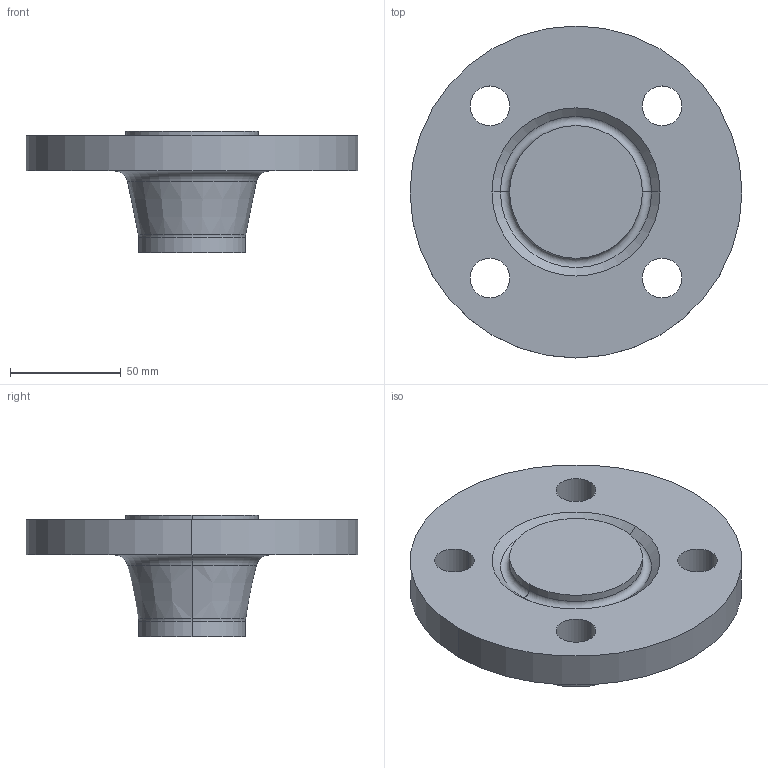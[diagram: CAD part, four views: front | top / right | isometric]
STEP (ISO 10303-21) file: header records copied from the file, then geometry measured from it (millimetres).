
FILE_DESCRIPTION (( 'STEP AP214' ), '1' );
FILE_NAME ('PN40 DN40 Type 21(ii) - Type H Face.STEP', '2018-12-30T01:18:50', ( '' ), ( '' ), 'SwSTEP 2.0', 'SolidWorks 2019', '' );
FILE_SCHEMA (( 'AUTOMOTIVE_DESIGN' ));
Length unit declared in the file: millimetre
Products named in the file (1): PN40 DN40 Type 21(ii) - Type H Face
Bounding box: 150 x 150 x 55 mm (x, y, z)
Volume: 350705.9 mm3; surface area: 50680.8 mm2
Topology: 1 solids, 1 shells, 28 faces, 62 edges, 38 vertices
Faces by surface type: cylinder 14, torus 6, cone 4, plane 4
Entity records: 840 total; most frequent: DIRECTION 164, CARTESIAN_POINT 129, ORIENTED_EDGE 124, AXIS2_PLACEMENT_3D 73, EDGE_CURVE 62, CIRCLE 44, VERTEX_POINT 38, EDGE_LOOP 38
